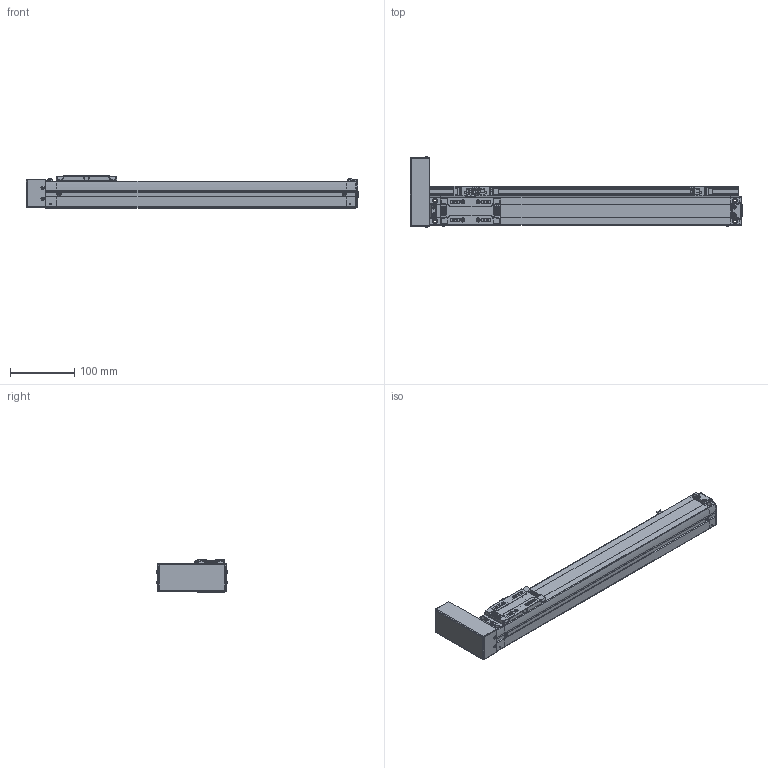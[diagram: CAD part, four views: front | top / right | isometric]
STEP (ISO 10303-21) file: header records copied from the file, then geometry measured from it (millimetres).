
FILE_DESCRIPTION(('STEP AP214'),'1');
FILE_NAME('Z:/Web/3D/SAN45/2013.ver/STP/SAN45ㅁㅁ-350PL+3SL.stp','2013-05-15T09:04:12',(' '),(' '),'Spatial InterOp 3D',' ',' ');
FILE_SCHEMA(('automotive_design'));
Length unit declared in the file: millimetre
Products named in the file (46): BODY-SAN45; REAR-SAN45; RRCV-SAN45; BHCS M3 x 6L; BHCS M3 X 6L; FRONT-SAN45; SHAFT; RN8 x 0.75; SSFX-SAN45; SLIDE-SAN45; SLCV-IM45; FHCS M3 x 6L; BTCV-SAN45; SRL-16x17-380L; EE-SX674; SBK-SX674-352; SDG-SA45; SCREW M3 x 5L
Bounding box: 516.15 x 110.13 x 50 mm (x, y, z)
Volume: 1071410.2 mm3; surface area: 221969.2 mm2
Topology: 46 solids, 46 shells, 2339 faces, 6039 edges, 3874 vertices
Faces by surface type: plane 1288, cylinder 733, cone 152, sphere 84, bspline 44, torus 32, extrusion 6
Entity records: 94659 total; most frequent: CARTESIAN_POINT 16864, DIRECTION 12568, ORIENTED_EDGE 11926, EDGE_CURVE 5963, AXIS2_PLACEMENT_3D 4391, VERTEX_POINT 3874, VECTOR 3786, LINE 3780
